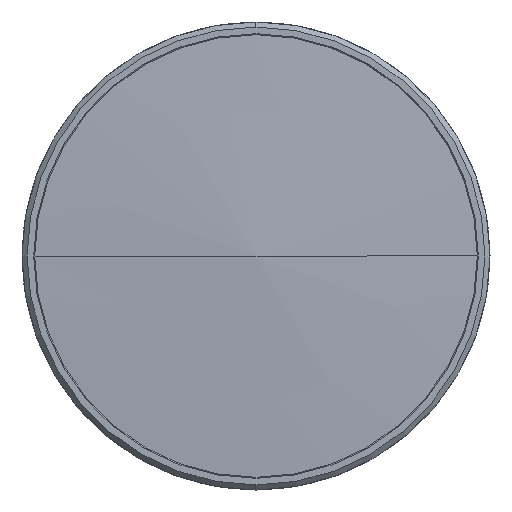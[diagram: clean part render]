
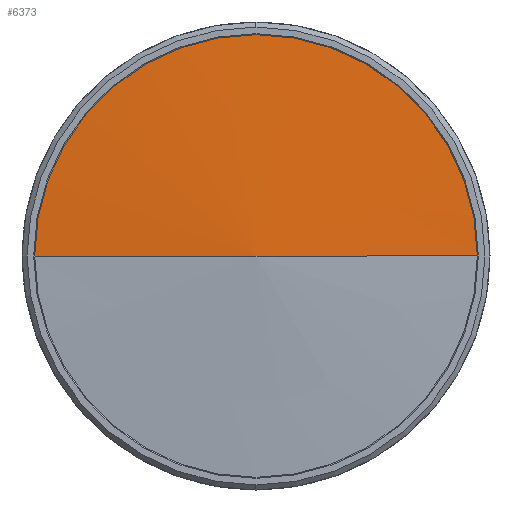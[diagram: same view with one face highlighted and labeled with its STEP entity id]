
A CAD part, left-side view. The second image highlights one B-rep face of the part: STEP entity #6373.
In plain terms, the highlighted conical face has half-angle 86.891 degrees and reference radius 18409.5 mm.
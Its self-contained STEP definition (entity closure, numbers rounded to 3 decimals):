
#171 = DIRECTION ( 'NONE',  ( 0.054, -0.999, 0. ) ) ;
#185 = VERTEX_POINT ( 'NONE', #755 ) ;
#233 = CIRCLE ( 'NONE', #4994, 108.75 ) ;
#271 = DIRECTION ( 'NONE',  ( 0., 0., -1. ) ) ;
#409 = LINE ( 'NONE', #981, #6974 ) ;
#755 = CARTESIAN_POINT ( 'NONE',  ( 5.907, 0., 108.75 ) ) ;
#929 = CARTESIAN_POINT ( 'NONE',  ( 5.907, -108.75, 0. ) ) ;
#981 = CARTESIAN_POINT ( 'NONE',  ( 0., 0., 0. ) ) ;
#2105 = EDGE_CURVE ( 'NONE', #6658, #3144, #409, .T. ) ;
#2142 = CIRCLE ( 'NONE', #6399, 108.75 ) ;
#2363 = CARTESIAN_POINT ( 'NONE',  ( 0., 0., 0. ) ) ;
#2797 = CARTESIAN_POINT ( 'NONE',  ( 0., 0., 0. ) ) ;
#2967 = CARTESIAN_POINT ( 'NONE',  ( 5.907, 0., 0. ) ) ;
#3144 = VERTEX_POINT ( 'NONE', #5169 ) ;
#3169 = DIRECTION ( 'NONE',  ( 0.054, 0.999, 0. ) ) ;
#3536 = DIRECTION ( 'NONE',  ( 1., 0., 0. ) ) ;
#3637 = EDGE_LOOP ( 'NONE', ( #4662, #5294, #4838, #5956 ) ) ;
#3689 = FACE_OUTER_BOUND ( 'NONE', #3637, .T. ) ;
#3776 = CARTESIAN_POINT ( 'NONE',  ( 1000., 0., 0. ) ) ;
#3827 = DIRECTION ( 'NONE',  ( 1., 0., 0. ) ) ;
#4019 = VERTEX_POINT ( 'NONE', #929 ) ;
#4317 = DIRECTION ( 'NONE',  ( 0., 0., -1. ) ) ;
#4662 = ORIENTED_EDGE ( 'NONE', *, *, #2105, .F. ) ;
#4838 = ORIENTED_EDGE ( 'NONE', *, *, #4921, .F. ) ;
#4887 = AXIS2_PLACEMENT_3D ( 'NONE', #3776, #6013, #5369 ) ;
#4921 = EDGE_CURVE ( 'NONE', #185, #4019, #2142, .T. ) ;
#4994 = AXIS2_PLACEMENT_3D ( 'NONE', #2967, #3536, #271 ) ;
#5080 = VECTOR ( 'NONE', #171, 1000. ) ;
#5169 = CARTESIAN_POINT ( 'NONE',  ( 5.907, 108.75, 0. ) ) ;
#5294 = ORIENTED_EDGE ( 'NONE', *, *, #6500, .T. ) ;
#5328 = CONICAL_SURFACE ( 'NONE', #4887, 18409.475, 1.517 ) ;
#5369 = DIRECTION ( 'NONE',  ( 0., 1., 0. ) ) ;
#5936 = EDGE_CURVE ( 'NONE', #3144, #185, #233, .T. ) ;
#5956 = ORIENTED_EDGE ( 'NONE', *, *, #5936, .F. ) ;
#6013 = DIRECTION ( 'NONE',  ( 1., 0., 0. ) ) ;
#6373 = ADVANCED_FACE ( 'NONE', ( #3689 ), #5328, .T. ) ;
#6399 = AXIS2_PLACEMENT_3D ( 'NONE', #6530, #3827, #4317 ) ;
#6500 = EDGE_CURVE ( 'NONE', #6658, #4019, #6874, .T. ) ;
#6530 = CARTESIAN_POINT ( 'NONE',  ( 5.907, 0., 0. ) ) ;
#6658 = VERTEX_POINT ( 'NONE', #2363 ) ;
#6874 = LINE ( 'NONE', #2797, #5080 ) ;
#6974 = VECTOR ( 'NONE', #3169, 1000. ) ;
